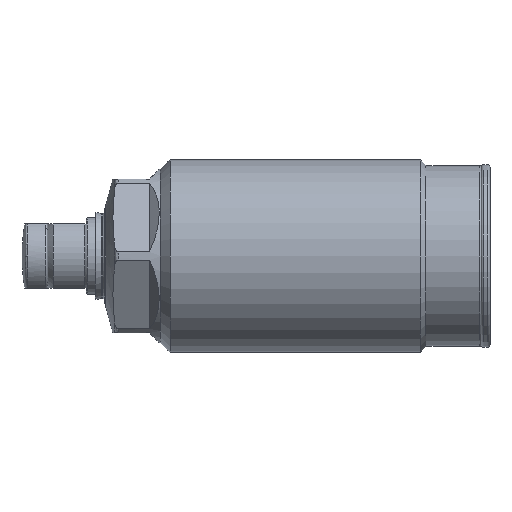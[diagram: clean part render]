
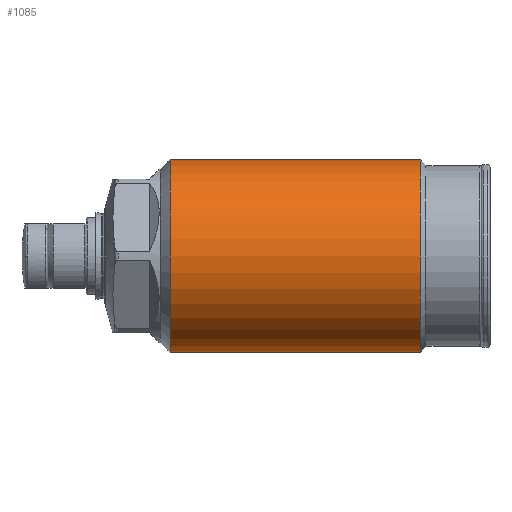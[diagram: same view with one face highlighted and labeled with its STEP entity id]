
A CAD part, left-side view. The second image highlights one B-rep face of the part: STEP entity #1085.
In plain terms, the highlighted cylindrical face has radius 15 mm (diameter 30 mm), a partial arc.
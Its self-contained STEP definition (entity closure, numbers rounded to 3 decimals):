
#1085=ADVANCED_FACE('',(#1295),#1195,.T.);
#1195=CYLINDRICAL_SURFACE('',#3588,15.);
#1295=FACE_OUTER_BOUND('',#1467,.T.);
#1467=EDGE_LOOP('',(#2132,#2133,#2134,#2135));
#1602=LINE('',#5035,#1697);
#1603=LINE('',#5039,#1698);
#1697=VECTOR('',#4053,1.);
#1698=VECTOR('',#4056,1.);
#2132=ORIENTED_EDGE('',*,*,#2869,.T.);
#2133=ORIENTED_EDGE('',*,*,#2963,.T.);
#2134=ORIENTED_EDGE('',*,*,#2871,.F.);
#2135=ORIENTED_EDGE('',*,*,#2962,.F.);
#2604=VERTEX_POINT('',#5030);
#2605=VERTEX_POINT('',#5032);
#2606=VERTEX_POINT('',#5036);
#2607=VERTEX_POINT('',#5038);
#2869=EDGE_CURVE('',#2606,#2604,#1602,.T.);
#2871=EDGE_CURVE('',#2607,#2605,#1603,.T.);
#2962=EDGE_CURVE('',#2606,#2607,#3256,.T.);
#2963=EDGE_CURVE('',#2604,#2605,#3257,.T.);
#3256=CIRCLE('',#3585,15.);
#3257=CIRCLE('',#3587,15.);
#3585=AXIS2_PLACEMENT_3D('',#5378,#4291,#4292);
#3587=AXIS2_PLACEMENT_3D('',#5380,#4295,#4296);
#3588=AXIS2_PLACEMENT_3D('',#5381,#4297,#4298);
#4053=DIRECTION('',(0.,1.,0.));
#4056=DIRECTION('',(0.,1.,0.));
#4291=DIRECTION('',(0.,-1.,0.));
#4292=DIRECTION('',(0.,0.,-1.));
#4295=DIRECTION('',(0.,-1.,0.));
#4296=DIRECTION('',(0.,0.,-1.));
#4297=DIRECTION('',(0.,-1.,0.));
#4298=DIRECTION('',(0.,0.,1.));
#5030=CARTESIAN_POINT('',(0.,56.228,15.));
#5032=CARTESIAN_POINT('',(0.,56.228,-15.));
#5035=CARTESIAN_POINT('',(0.,0.,15.));
#5036=CARTESIAN_POINT('',(0.,17.228,15.));
#5038=CARTESIAN_POINT('',(0.,17.228,-15.));
#5039=CARTESIAN_POINT('',(0.,0.,-15.));
#5378=CARTESIAN_POINT('',(0.,17.228,0.));
#5380=CARTESIAN_POINT('',(0.,56.228,0.));
#5381=CARTESIAN_POINT('',(0.,0.,0.));
